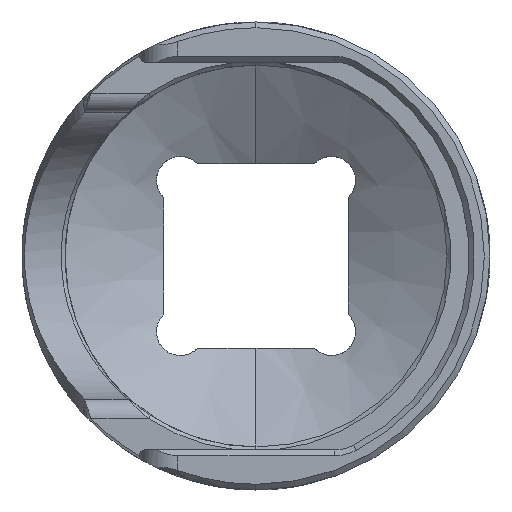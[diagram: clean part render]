
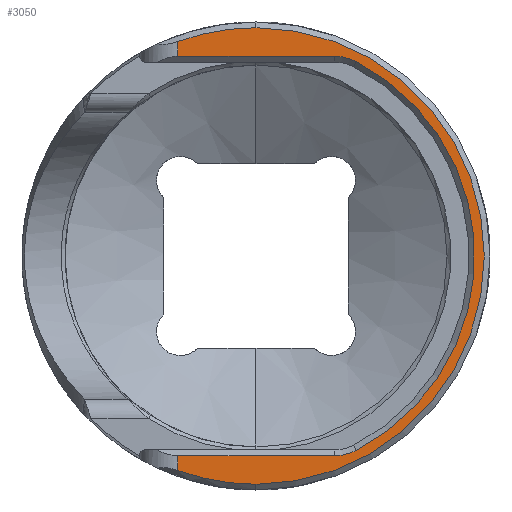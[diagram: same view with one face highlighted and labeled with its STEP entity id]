
A CAD part, left-side view. The second image highlights one B-rep face of the part: STEP entity #3050.
In plain terms, the highlighted planar face has unit normal (-1, 0, 0).
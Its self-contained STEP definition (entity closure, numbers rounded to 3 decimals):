
#177 = DIRECTION ( 'NONE',  ( 0., 1., 0. ) ) ;
#232 = CARTESIAN_POINT ( 'NONE',  ( 0., 4.097, -12.25 ) ) ;
#263 = VERTEX_POINT ( 'NONE', #6959 ) ;
#351 = PLANE ( 'NONE',  #9282 ) ;
#401 = AXIS2_PLACEMENT_3D ( 'NONE', #1247, #955, #5591 ) ;
#406 = CARTESIAN_POINT ( 'NONE',  ( 0., 0., 0. ) ) ;
#578 = AXIS2_PLACEMENT_3D ( 'NONE', #1873, #1921, #7431 ) ;
#888 = CARTESIAN_POINT ( 'NONE',  ( 0., 0., 0. ) ) ;
#955 = DIRECTION ( 'NONE',  ( 1., 0., 0. ) ) ;
#1247 = CARTESIAN_POINT ( 'NONE',  ( 0., -4.111, -7.95 ) ) ;
#1283 = EDGE_CURVE ( 'NONE', #1703, #5612, #1723, .T. ) ;
#1350 = VECTOR ( 'NONE', #6257, 1000. ) ;
#1365 = CARTESIAN_POINT ( 'NONE',  ( 0., 0., 11.95 ) ) ;
#1548 = ORIENTED_EDGE ( 'NONE', *, *, #9815, .T. ) ;
#1551 = DIRECTION ( 'NONE',  ( 1., 0., 0. ) ) ;
#1606 = CARTESIAN_POINT ( 'NONE',  ( 0., -4.111, 7.95 ) ) ;
#1651 = ORIENTED_EDGE ( 'NONE', *, *, #6048, .T. ) ;
#1703 = VERTEX_POINT ( 'NONE', #7928 ) ;
#1723 = LINE ( 'NONE', #8006, #8325 ) ;
#1746 = VERTEX_POINT ( 'NONE', #4679 ) ;
#1796 = DIRECTION ( 'NONE',  ( 0., 0., -1. ) ) ;
#1873 = CARTESIAN_POINT ( 'NONE',  ( 0., 0., 0. ) ) ;
#1921 = DIRECTION ( 'NONE',  ( -1., 0., 0. ) ) ;
#1954 = VERTEX_POINT ( 'NONE', #10144 ) ;
#2298 = LINE ( 'NONE', #6359, #1350 ) ;
#2395 = CIRCLE ( 'NONE', #9294, 11.45 ) ;
#2560 = VECTOR ( 'NONE', #5890, 1000. ) ;
#2622 = CARTESIAN_POINT ( 'NONE',  ( 0., 12.25, 0. ) ) ;
#2943 = VERTEX_POINT ( 'NONE', #4827 ) ;
#2982 = ORIENTED_EDGE ( 'NONE', *, *, #4605, .T. ) ;
#3050 = ADVANCED_FACE ( 'NONE', ( #4207 ), #351, .F. ) ;
#3100 = VERTEX_POINT ( 'NONE', #4157 ) ;
#3250 = ORIENTED_EDGE ( 'NONE', *, *, #1283, .T. ) ;
#3528 = CIRCLE ( 'NONE', #10095, 2.5 ) ;
#3548 = DIRECTION ( 'NONE',  ( 0., 0., -1. ) ) ;
#3749 = CARTESIAN_POINT ( 'NONE',  ( 0., -4.111, 10.45 ) ) ;
#3759 = EDGE_CURVE ( 'NONE', #4130, #1703, #9608, .T. ) ;
#3789 = CARTESIAN_POINT ( 'NONE',  ( 0., 0., 0. ) ) ;
#3969 = CARTESIAN_POINT ( 'NONE',  ( 0., -5.259, -10.171 ) ) ;
#4130 = VERTEX_POINT ( 'NONE', #3969 ) ;
#4157 = CARTESIAN_POINT ( 'NONE',  ( 0., 4.097, -11.226 ) ) ;
#4207 = FACE_OUTER_BOUND ( 'NONE', #7764, .T. ) ;
#4242 = EDGE_CURVE ( 'NONE', #7773, #1746, #3528, .T. ) ;
#4380 = DIRECTION ( 'NONE',  ( 0., -1., 0. ) ) ;
#4394 = EDGE_CURVE ( 'NONE', #263, #7773, #6745, .T. ) ;
#4605 = EDGE_CURVE ( 'NONE', #3100, #1954, #9274, .T. ) ;
#4679 = CARTESIAN_POINT ( 'NONE',  ( 0., -5.259, 10.171 ) ) ;
#4685 = AXIS2_PLACEMENT_3D ( 'NONE', #888, #7737, #9441 ) ;
#4827 = CARTESIAN_POINT ( 'NONE',  ( 0., 4.097, 11.226 ) ) ;
#5042 = CARTESIAN_POINT ( 'NONE',  ( 0., -4.111, 10.45 ) ) ;
#5107 = ORIENTED_EDGE ( 'NONE', *, *, #3759, .T. ) ;
#5165 = VECTOR ( 'NONE', #4380, 1000. ) ;
#5270 = EDGE_CURVE ( 'NONE', #3100, #5612, #2298, .T. ) ;
#5377 = EDGE_CURVE ( 'NONE', #8387, #2943, #6827, .T. ) ;
#5394 = DIRECTION ( 'NONE',  ( 0., 0., -1. ) ) ;
#5449 = ORIENTED_EDGE ( 'NONE', *, *, #5377, .T. ) ;
#5591 = DIRECTION ( 'NONE',  ( 0., 0., -1. ) ) ;
#5612 = VERTEX_POINT ( 'NONE', #8771 ) ;
#5662 = DIRECTION ( 'NONE',  ( -1., 0., 0. ) ) ;
#5759 = DIRECTION ( 'NONE',  ( 1., 0., 0. ) ) ;
#5817 = AXIS2_PLACEMENT_3D ( 'NONE', #406, #5662, #3548 ) ;
#5890 = DIRECTION ( 'NONE',  ( 0., 0., 1. ) ) ;
#6048 = EDGE_CURVE ( 'NONE', #1954, #8387, #8149, .T. ) ;
#6257 = DIRECTION ( 'NONE',  ( 0., 0., 1. ) ) ;
#6359 = CARTESIAN_POINT ( 'NONE',  ( 0., 4.097, -12.25 ) ) ;
#6433 = ORIENTED_EDGE ( 'NONE', *, *, #4394, .T. ) ;
#6745 = LINE ( 'NONE', #3749, #5165 ) ;
#6827 = CIRCLE ( 'NONE', #4685, 11.95 ) ;
#6959 = CARTESIAN_POINT ( 'NONE',  ( 0., 4.097, 10.45 ) ) ;
#7431 = DIRECTION ( 'NONE',  ( 0., 0., -1. ) ) ;
#7737 = DIRECTION ( 'NONE',  ( -1., 0., 0. ) ) ;
#7764 = EDGE_LOOP ( 'NONE', ( #5107, #3250, #7829, #2982, #1651, #5449, #9271, #6433, #8499, #1548 ) ) ;
#7773 = VERTEX_POINT ( 'NONE', #5042 ) ;
#7829 = ORIENTED_EDGE ( 'NONE', *, *, #5270, .F. ) ;
#7928 = CARTESIAN_POINT ( 'NONE',  ( 0., -4.111, -10.45 ) ) ;
#8006 = CARTESIAN_POINT ( 'NONE',  ( 0., 4.097, -10.45 ) ) ;
#8149 = CIRCLE ( 'NONE', #578, 11.95 ) ;
#8325 = VECTOR ( 'NONE', #177, 1000. ) ;
#8387 = VERTEX_POINT ( 'NONE', #1365 ) ;
#8499 = ORIENTED_EDGE ( 'NONE', *, *, #4242, .T. ) ;
#8532 = DIRECTION ( 'NONE',  ( 1., 0., 0. ) ) ;
#8771 = CARTESIAN_POINT ( 'NONE',  ( 0., 4.097, -10.45 ) ) ;
#9271 = ORIENTED_EDGE ( 'NONE', *, *, #9468, .F. ) ;
#9274 = CIRCLE ( 'NONE', #5817, 11.95 ) ;
#9282 = AXIS2_PLACEMENT_3D ( 'NONE', #2622, #5759, #1796 ) ;
#9294 = AXIS2_PLACEMENT_3D ( 'NONE', #3789, #8532, #5394 ) ;
#9441 = DIRECTION ( 'NONE',  ( 0., 0., -1. ) ) ;
#9468 = EDGE_CURVE ( 'NONE', #263, #2943, #9855, .T. ) ;
#9608 = CIRCLE ( 'NONE', #401, 2.5 ) ;
#9815 = EDGE_CURVE ( 'NONE', #1746, #4130, #2395, .T. ) ;
#9855 = LINE ( 'NONE', #232, #2560 ) ;
#10095 = AXIS2_PLACEMENT_3D ( 'NONE', #1606, #1551, #10153 ) ;
#10144 = CARTESIAN_POINT ( 'NONE',  ( 0., 0., -11.95 ) ) ;
#10153 = DIRECTION ( 'NONE',  ( 0., 0., -1. ) ) ;
